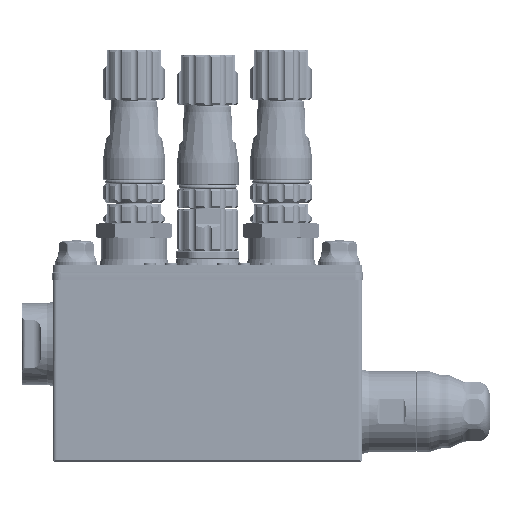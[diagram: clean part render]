
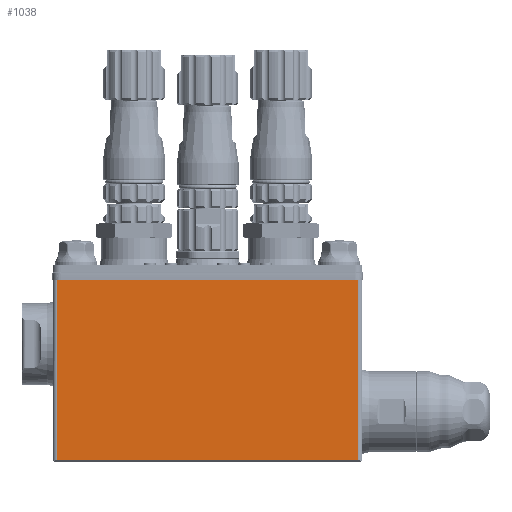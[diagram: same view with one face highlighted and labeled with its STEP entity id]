
A CAD part, front view. The second image highlights one B-rep face of the part: STEP entity #1038.
In plain terms, the highlighted planar face has unit normal (0, -1, 0).
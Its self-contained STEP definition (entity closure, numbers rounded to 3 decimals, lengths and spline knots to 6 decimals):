
#1038=ADVANCED_FACE('56720:6988',(#5138),#5139,.T.);
#5138=FACE_OUTER_BOUND('',#22447,.T.);
#5139=PLANE('',#22448);
#22447=EDGE_LOOP('',(#56357,#56358,#56359,#56360,#56361,#56362));
#22448=AXIS2_PLACEMENT_3D('',#56363,#56364,#56365);
#56357=ORIENTED_EDGE('',*,*,#78404,.F.);
#56358=ORIENTED_EDGE('',*,*,#76465,.F.);
#56359=ORIENTED_EDGE('',*,*,#78532,.T.);
#56360=ORIENTED_EDGE('',*,*,#78533,.T.);
#56361=ORIENTED_EDGE('',*,*,#78534,.T.);
#56362=ORIENTED_EDGE('',*,*,#78406,.F.);
#56363=CARTESIAN_POINT('',(0.,0.0,-0.0215));
#56364=DIRECTION('',(0.,-1.0,0.0));
#56365=DIRECTION('',(1.0,0.,0.0));
#76465=EDGE_CURVE('54599:1880',#85936,#85938,#85939,.T.);
#78404=EDGE_CURVE('56720:7163',#85938,#89147,#89148,.T.);
#78406=EDGE_CURVE('54599:1886',#89147,#89150,#89151,.T.);
#78532=EDGE_CURVE('56722:8440',#85936,#89358,#89360,.F.);
#78533=EDGE_CURVE('56722:8443',#89358,#89361,#89362,.F.);
#78534=EDGE_CURVE('56722:8446',#89361,#89150,#89363,.F.);
#85936=VERTEX_POINT('',#100861);
#85938=VERTEX_POINT('',#100863);
#85939=LINE('',#100864,#100865);
#89147=VERTEX_POINT('',#134610);
#89148=LINE('',#134611,#134612);
#89150=VERTEX_POINT('',#134614);
#89151=LINE('',#134615,#134616);
#89358=VERTEX_POINT('',#136110);
#89360=LINE('',#136145,#136146);
#89361=VERTEX_POINT('',#136147);
#89362=LINE('',#136148,#136149);
#89363=LINE('',#136150,#136151);
#100861=CARTESIAN_POINT('',(0.039,0.,0.0235));
#100863=CARTESIAN_POINT('',(0.039,0.,-0.023));
#100864=CARTESIAN_POINT('',(0.039,0.,-0.0215));
#100865=VECTOR('',#233055,1.0);
#134610=CARTESIAN_POINT('',(-0.039,0.,-0.023));
#134611=CARTESIAN_POINT('',(0.,0.0,-0.023));
#134612=VECTOR('',#235545,1.0);
#134614=CARTESIAN_POINT('',(-0.039,0.,0.0235));
#134615=CARTESIAN_POINT('',(-0.039,0.,-0.0215));
#134616=VECTOR('',#235549,1.0);
#136110=CARTESIAN_POINT('',(0.038,0.,0.0235));
#136145=CARTESIAN_POINT('',(0.,0.0,0.0235));
#136146=VECTOR('',#235718,1.0);
#136147=CARTESIAN_POINT('',(-0.038,0.,0.0235));
#136148=CARTESIAN_POINT('',(0.,0.0,0.0235));
#136149=VECTOR('',#235719,1.0);
#136150=CARTESIAN_POINT('',(0.,0.0,0.0235));
#136151=VECTOR('',#235720,1.0);
#233055=DIRECTION('',(0.0,0.0,-1.0));
#235545=DIRECTION('',(-1.0,0.,0.0));
#235549=DIRECTION('',(0.0,0.0,1.0));
#235718=DIRECTION('',(1.0,0.,0.0));
#235719=DIRECTION('',(1.0,0.,0.0));
#235720=DIRECTION('',(1.0,0.,0.0));
